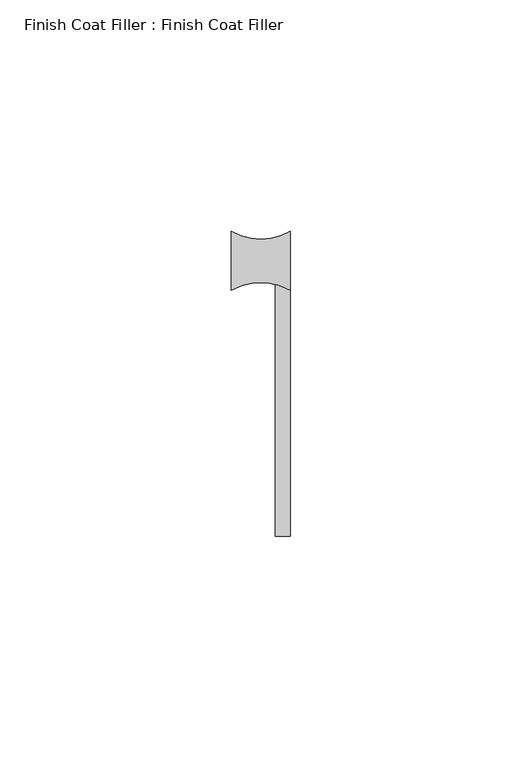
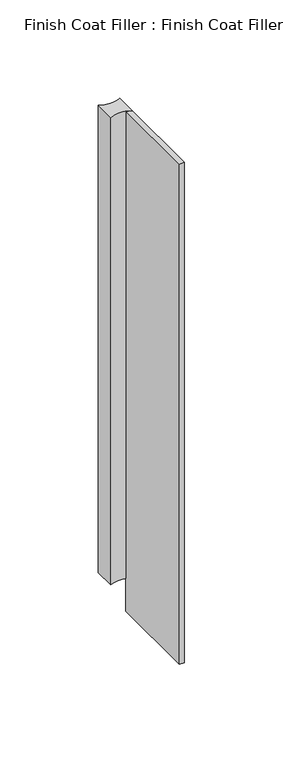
"""IFC4 building model written with IfcOpenShell, lengths in millimetres: proxy geometry, Finish Coat Filler : Finish Coat Filler."""

from ifc_helpers import new_model, si_unit, point, frame, frame_2d, origin, place, context, project, spatial, polyline, circle_curve, trimmed, segment, composite_curve, outline, extrude, source, transform, mapped, element, save


def finish_coat_filler_finish_coat_filler_9b34bf11(model_context):
    return source(origin(), model_context, "Body", "SweptSolid", [
        extrude(outline(composite_curve([segment(polyline([(26843.1851773, 591.9128797), (26843.1851773, 604.6128797)]), True, "CONTINUOUS"), segment(trimmed(circle_curve(frame_2d((26849.5351773, 615.6114023)), 12.7), [point((26843.1851773, 604.6128797))], [point((26855.8851773, 604.6128797))], True, "CARTESIAN"), True, "CONTINUOUS"), segment(polyline([(26855.8851773, 604.6128797), (26855.8851773, 591.9128797)]), True, "CONTINUOUS"), segment(trimmed(circle_curve(frame_2d((26849.5351773, 580.914357)), 12.7), [point((26855.8851773, 591.9128797))], [point((26843.1851773, 591.9128797))], True, "CARTESIAN"), True, "CONTINUOUS")], self_intersect=False)), frame((0.0, 0.0, 623.8875), z_axis=(0.0, 0.0, 1.0), x_axis=(1.0, 0.0, 0.0)), (0.0, 0.0, 1.0), 290.5125),
        extrude(outline(composite_curve([segment(polyline([(26852.7101773, 538.7316297), (26852.7101773, 593.2110791)]), True, "CONTINUOUS"), segment(trimmed(circle_curve(frame_2d((26849.5351773, 580.914357)), 12.7), [point((26852.7101773, 593.2110791))], [point((26855.8851773, 591.9128797))], False, "CARTESIAN"), True, "CONTINUOUS"), segment(polyline([(26855.8851773, 591.9128797), (26855.8851773, 538.7316297), (26852.7101773, 538.7316297)]), True, "CONTINUOUS")], self_intersect=False)), frame((0.0, 0.0, 603.375778), z_axis=(0.0, 0.0, 1.0), x_axis=(1.0, 0.0, 0.0)), (0.0, 0.0, 1.0), 311.024222),
    ])


if __name__ == "__main__":
    model = new_model("IFC4")
    model_context = context("Model", 3, world=origin())
    ifc_project = project(units=[si_unit("LENGTHUNIT", "METRE", prefix="MILLI")], contexts=[model_context])
    site = spatial("IfcSite", under=ifc_project)
    building = spatial("IfcBuilding", under=site)
    placement = place(None, origin())
    finish_coat_filler_finish_coat_filler_shape = finish_coat_filler_finish_coat_filler_9b34bf11(model_context)
    element("IfcBuildingElementProxy", 1, Name="Finish Coat Filler : Finish Coat Filler", ObjectType="Finish Coat Filler : Finish Coat Filler", at=placement, inside=building, context=model_context, shape_type="MappedRepresentation", body=[
        mapped(finish_coat_filler_finish_coat_filler_shape, transform((0.0, 0.0, 0.0), x_axis=(1.0, 0.0, 0.0), y_axis=(0.0, 1.0, 0.0), z_axis=(0.0, 0.0, 1.0))),
    ])
    save(model, "model.ifc")
